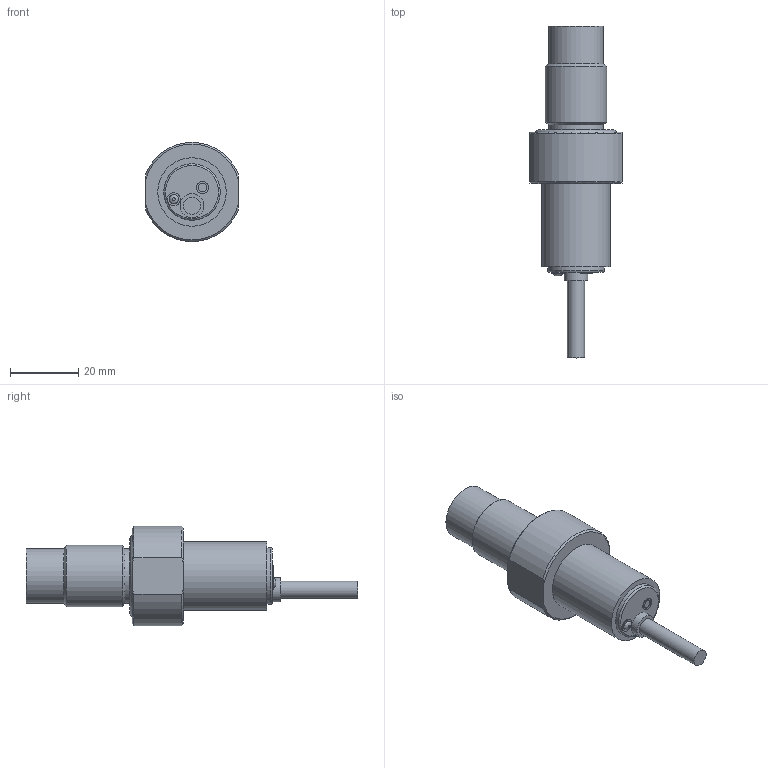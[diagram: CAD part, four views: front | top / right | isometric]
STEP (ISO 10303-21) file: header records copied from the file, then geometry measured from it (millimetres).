
FILE_DESCRIPTION((''),'2;1');
FILE_NAME('C:\TurckZip\BC-S185-X.stp','2008-06-30T11:42:07',('IKOROL'),(''),'Autodesk Inventor 2008','Autodesk Inventor 2008','');
FILE_SCHEMA(('CONFIG_CONTROL_DESIGN'));
Length unit declared in the file: millimetre
Products named in the file (1): Part2
Bounding box: 27 x 97 x 29 mm (x, y, z)
Volume: 25322.7 mm3; surface area: 7151.9 mm2
Topology: 2 solids, 2 shells, 38 faces, 70 edges, 45 vertices
Faces by surface type: plane 15, cylinder 14, cone 6, torus 2, bspline 1
Full cylindrical faces by diameter (mm): 2.5 x1, 3.5 x1, 3.8 x1, 5 x1, 7 x1, 16.066 x2, 16.5 x1, 18 x1, 18.699 x1, 20 x1, 24.71 x1
Entity records: 943 total; most frequent: CARTESIAN_POINT 178, DIRECTION 158, ORIENTED_EDGE 106, AXIS2_PLACEMENT_3D 75, EDGE_LOOP 65, EDGE_CURVE 53, VERTEX_POINT 44, FACE_OUTER_BOUND 38
